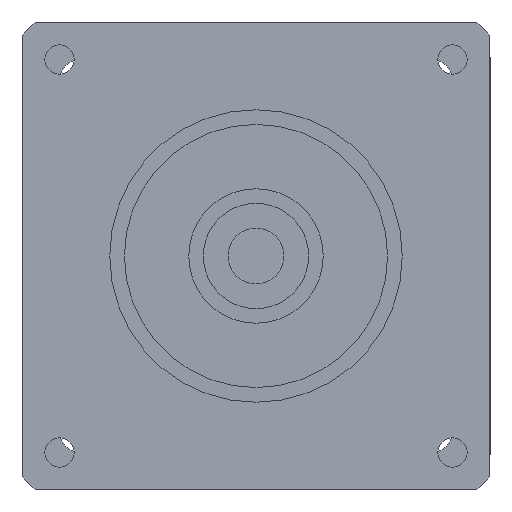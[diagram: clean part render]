
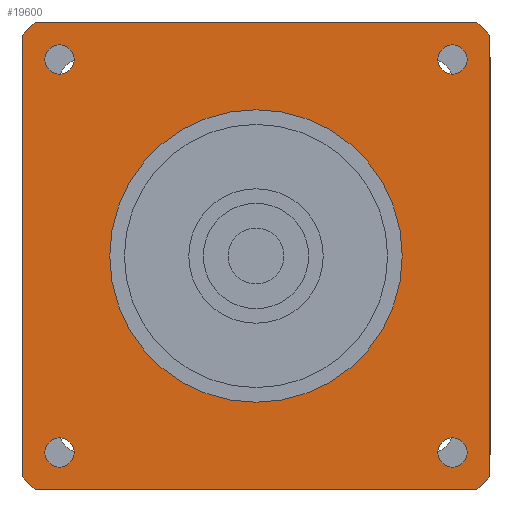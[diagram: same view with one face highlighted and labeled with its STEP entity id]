
A CAD part, left-side view. The second image highlights one B-rep face of the part: STEP entity #19600.
In plain terms, the highlighted planar face has unit normal (-1, 0, 0) as drawn and (0, 0, -1) by its records, which use the part's own axes.
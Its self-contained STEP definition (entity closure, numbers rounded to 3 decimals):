
#14250=CARTESIAN_POINT('',(-40.,-37.749,-42.));
#14260=VERTEX_POINT('',#14250);
#14310=CARTESIAN_POINT('',(-40.,40.,-42.));
#14320=DIRECTION('',(0.,-1.,0.));
#14330=VECTOR('',#14320,1000.);
#14340=LINE('',#14310,#14330);
#14350=CARTESIAN_POINT('',(-40.,37.749,-42.));
#14360=VERTEX_POINT('',#14350);
#14370=EDGE_CURVE('',#14360,#14260,#14340,.T.);
#18060=CARTESIAN_POINT('',(33.588,-31.088,-42.));
#18070=VERTEX_POINT('',#18060);
#18150=CARTESIAN_POINT('',(33.588,-36.088,-42.));
#18160=VERTEX_POINT('',#18150);
#18190=CARTESIAN_POINT('',(33.588,-33.588,-42.));
#18200=DIRECTION('',(0.,0.,1.));
#18210=DIRECTION('',(0.,1.,0.));
#18220=AXIS2_PLACEMENT_3D('',#18190,#18200,#18210);
#18230=CIRCLE('',#18220,2.5);
#18240=EDGE_CURVE('',#18160,#18070,#18230,.T.);
#18290=CARTESIAN_POINT('',(40.,-40.,-42.));
#18300=DIRECTION('',(0.,0.,1.));
#18310=DIRECTION('',(0.,1.,0.));
#18320=AXIS2_PLACEMENT_3D('',#18290,#18300,#18310);
#18330=PLANE('',#18320);
#18340=CARTESIAN_POINT('',(-33.588,-33.588,-42.));
#18350=DIRECTION('',(0.,0.,1.));
#18360=DIRECTION('',(0.,1.,0.));
#18370=AXIS2_PLACEMENT_3D('',#18340,#18350,#18360);
#18380=CIRCLE('',#18370,2.5);
#18390=CARTESIAN_POINT('',(-33.588,-31.088,-42.));
#18400=VERTEX_POINT('',#18390);
#18410=CARTESIAN_POINT('',(-33.588,-36.088,-42.));
#18420=VERTEX_POINT('',#18410);
#18430=EDGE_CURVE('',#18400,#18420,#18380,.T.);
#18440=ORIENTED_EDGE('',*,*,#18430,.T.);
#18450=EDGE_CURVE('',#18420,#18400,#18380,.T.);
#18460=ORIENTED_EDGE('',*,*,#18450,.T.);
#18470=EDGE_LOOP('',(#18460,#18440));
#18480=FACE_BOUND('',#18470,.T.);
#18490=CARTESIAN_POINT('',(33.588,33.588,-42.));
#18500=DIRECTION('',(0.,0.,1.));
#18510=DIRECTION('',(0.,1.,0.));
#18520=AXIS2_PLACEMENT_3D('',#18490,#18500,#18510);
#18530=CIRCLE('',#18520,2.5);
#18540=CARTESIAN_POINT('',(33.588,36.088,-42.));
#18550=VERTEX_POINT('',#18540);
#18560=CARTESIAN_POINT('',(33.588,31.088,-42.));
#18570=VERTEX_POINT('',#18560);
#18580=EDGE_CURVE('',#18550,#18570,#18530,.T.);
#18590=ORIENTED_EDGE('',*,*,#18580,.T.);
#18600=EDGE_CURVE('',#18570,#18550,#18530,.T.);
#18610=ORIENTED_EDGE('',*,*,#18600,.T.);
#18620=EDGE_LOOP('',(#18610,#18590));
#18630=FACE_BOUND('',#18620,.T.);
#18640=CARTESIAN_POINT('',(-33.588,33.588,-42.));
#18650=DIRECTION('',(0.,0.,1.));
#18660=DIRECTION('',(0.,1.,0.));
#18670=AXIS2_PLACEMENT_3D('',#18640,#18650,#18660);
#18680=CIRCLE('',#18670,2.5);
#18690=CARTESIAN_POINT('',(-33.588,36.088,-42.));
#18700=VERTEX_POINT('',#18690);
#18710=CARTESIAN_POINT('',(-33.588,31.088,-42.));
#18720=VERTEX_POINT('',#18710);
#18730=EDGE_CURVE('',#18700,#18720,#18680,.T.);
#18740=ORIENTED_EDGE('',*,*,#18730,.T.);
#18750=EDGE_CURVE('',#18720,#18700,#18680,.T.);
#18760=ORIENTED_EDGE('',*,*,#18750,.T.);
#18770=EDGE_LOOP('',(#18760,#18740));
#18780=FACE_BOUND('',#18770,.T.);
#18790=CARTESIAN_POINT('',(0.,0.,
-42.));
#18800=DIRECTION('',(0.,0.,1.));
#18810=DIRECTION('',(0.,-1.,0.));
#18820=AXIS2_PLACEMENT_3D('',#18790,#18800,#18810);
#18830=CIRCLE('',#18820,25.);
#18840=CARTESIAN_POINT('',(0.,-25.,-42.));
#18850=VERTEX_POINT('',#18840);
#18860=CARTESIAN_POINT('',(0.,25.,-42.));
#18870=VERTEX_POINT('',#18860);
#18880=EDGE_CURVE('',#18850,#18870,#18830,.T.);
#18890=ORIENTED_EDGE('',*,*,#18880,.T.);
#18900=EDGE_CURVE('',#18870,#18850,#18830,.T.);
#18910=ORIENTED_EDGE('',*,*,#18900,.T.);
#18920=EDGE_LOOP('',(#18910,#18890));
#18930=FACE_BOUND('',#18920,.T.);
#18940=EDGE_CURVE('',#18070,#18160,#18230,.T.);
#18950=ORIENTED_EDGE('',*,*,#18940,.T.);
#18960=ORIENTED_EDGE('',*,*,#18240,.T.);
#18970=EDGE_LOOP('',(#18960,#18950));
#18980=FACE_BOUND('',#18970,.T.);
#18990=CARTESIAN_POINT('',(0.,0.,
-42.));
#19000=DIRECTION('',(0.,0.,1.));
#19010=DIRECTION('',(0.,1.,0.));
#19020=AXIS2_PLACEMENT_3D('',#18990,#19000,#19010);
#19030=CIRCLE('',#19020,55.);
#19040=CARTESIAN_POINT('',(-37.749,40.,-42.));
#19050=VERTEX_POINT('',#19040);
#19060=EDGE_CURVE('',#19050,#14360,#19030,.T.);
#19070=ORIENTED_EDGE('',*,*,#19060,.F.);
#19080=ORIENTED_EDGE('',*,*,#14370,.F.);
#19090=CARTESIAN_POINT('',(0.,0.,
-42.));
#19100=DIRECTION('',(0.,0.,1.));
#19110=DIRECTION('',(0.,1.,0.));
#19120=AXIS2_PLACEMENT_3D('',#19090,#19100,#19110);
#19130=CIRCLE('',#19120,55.);
#19140=CARTESIAN_POINT('',(-37.749,-40.,-42.));
#19150=VERTEX_POINT('',#19140);
#19160=EDGE_CURVE('',#14260,#19150,#19130,.T.);
#19170=ORIENTED_EDGE('',*,*,#19160,.F.);
#19180=CARTESIAN_POINT('',(-40.,-40.,-42.));
#19190=DIRECTION('',(1.,0.,0.));
#19200=VECTOR('',#19190,1000.);
#19210=LINE('',#19180,#19200);
#19220=CARTESIAN_POINT('',(37.749,-40.,-42.));
#19230=VERTEX_POINT('',#19220);
#19240=EDGE_CURVE('',#19150,#19230,#19210,.T.);
#19250=ORIENTED_EDGE('',*,*,#19240,.F.);
#19260=CARTESIAN_POINT('',(0.,0.,
-42.));
#19270=DIRECTION('',(0.,0.,1.));
#19280=DIRECTION('',(0.,1.,0.));
#19290=AXIS2_PLACEMENT_3D('',#19260,#19270,#19280);
#19300=CIRCLE('',#19290,55.);
#19310=CARTESIAN_POINT('',(40.,-37.749,-42.));
#19320=VERTEX_POINT('',#19310);
#19330=EDGE_CURVE('',#19230,#19320,#19300,.T.);
#19340=ORIENTED_EDGE('',*,*,#19330,.F.);
#19350=CARTESIAN_POINT('',(40.,-40.,-42.));
#19360=DIRECTION('',(0.,1.,0.));
#19370=VECTOR('',#19360,1000.);
#19380=LINE('',#19350,#19370);
#19390=CARTESIAN_POINT('',(40.,37.749,-42.));
#19400=VERTEX_POINT('',#19390);
#19410=EDGE_CURVE('',#19320,#19400,#19380,.T.);
#19420=ORIENTED_EDGE('',*,*,#19410,.F.);
#19430=CARTESIAN_POINT('',(0.,0.,
-42.));
#19440=DIRECTION('',(0.,0.,1.));
#19450=DIRECTION('',(0.,1.,0.));
#19460=AXIS2_PLACEMENT_3D('',#19430,#19440,#19450);
#19470=CIRCLE('',#19460,55.);
#19480=CARTESIAN_POINT('',(37.749,40.,-42.));
#19490=VERTEX_POINT('',#19480);
#19500=EDGE_CURVE('',#19400,#19490,#19470,.T.);
#19510=ORIENTED_EDGE('',*,*,#19500,.F.);
#19520=CARTESIAN_POINT('',(40.,40.,-42.));
#19530=DIRECTION('',(-1.,0.,0.));
#19540=VECTOR('',#19530,1000.);
#19550=LINE('',#19520,#19540);
#19560=EDGE_CURVE('',#19490,#19050,#19550,.T.);
#19570=ORIENTED_EDGE('',*,*,#19560,.F.);
#19580=EDGE_LOOP('',(#19570,#19510,#19420,#19340,#19250,#19170,#19080,
#19070));
#19590=FACE_OUTER_BOUND('',#19580,.T.);
#19600=ADVANCED_FACE('',(#18480,#18630,#18780,#18930,#18980,#19590),
#18330,.F.);
